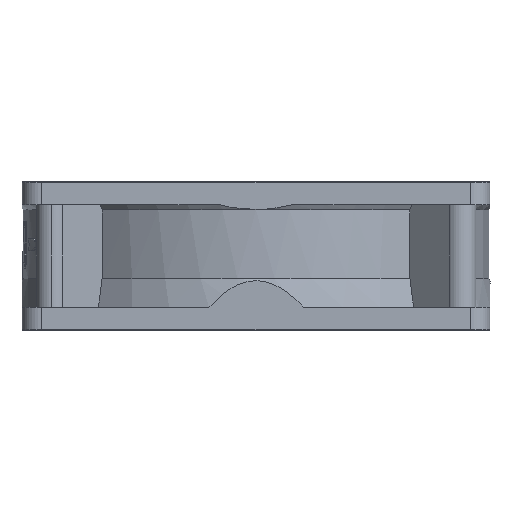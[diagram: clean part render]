
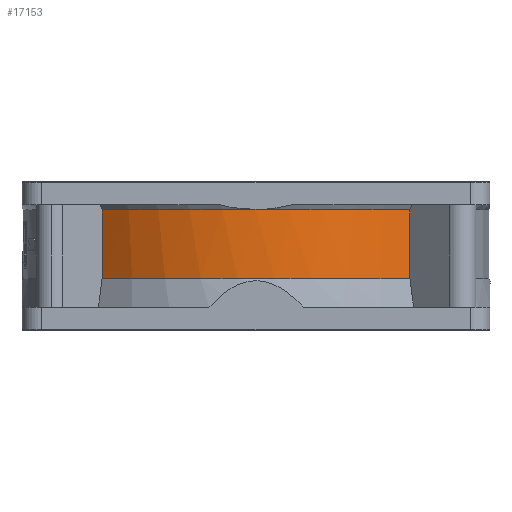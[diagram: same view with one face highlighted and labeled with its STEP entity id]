
A CAD part, front view. The second image highlights one B-rep face of the part: STEP entity #17153.
In plain terms, the highlighted cylindrical face has radius 59.9 mm (diameter 119.8 mm), a partial arc.
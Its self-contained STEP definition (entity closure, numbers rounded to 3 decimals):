
#927 = EDGE_CURVE ( 'NONE', #31319, #36711, #13132, .T. ) ;
#1618 = DIRECTION ( 'NONE',  ( 0., 1., 0. ) ) ;
#3577 = VECTOR ( 'NONE', #10868, 1000. ) ;
#4186 = CIRCLE ( 'NONE', #28013, 59.9 ) ;
#4473 = CARTESIAN_POINT ( 'NONE',  ( 0., 0., 30.9 ) ) ;
#5042 = VERTEX_POINT ( 'NONE', #5682 ) ;
#5682 = CARTESIAN_POINT ( 'NONE',  ( -39.47, -45.057, 13.3 ) ) ;
#6565 = CARTESIAN_POINT ( 'NONE',  ( 39.47, -45.057, 30.9 ) ) ;
#10178 = CARTESIAN_POINT ( 'NONE',  ( 0., 0., 30.9 ) ) ;
#10749 = ORIENTED_EDGE ( 'NONE', *, *, #927, .T. ) ;
#10868 = DIRECTION ( 'NONE',  ( 0., 0., 1. ) ) ;
#11806 = CYLINDRICAL_SURFACE ( 'NONE', #36305, 59.9 ) ;
#12175 = AXIS2_PLACEMENT_3D ( 'NONE', #10178, #19116, #1618 ) ;
#13132 = CIRCLE ( 'NONE', #30953, 59.9 ) ;
#13680 = DIRECTION ( 'NONE',  ( 0., 1., 0. ) ) ;
#15641 = DIRECTION ( 'NONE',  ( 0., 0., -1. ) ) ;
#16049 = ORIENTED_EDGE ( 'NONE', *, *, #30773, .T. ) ;
#16186 = LINE ( 'NONE', #24964, #25703 ) ;
#16481 = VERTEX_POINT ( 'NONE', #23526 ) ;
#17053 = EDGE_CURVE ( 'NONE', #27428, #5042, #4186, .T. ) ;
#17153 = ADVANCED_FACE ( 'NONE', ( #34846 ), #11806, .T. ) ;
#18345 = EDGE_CURVE ( 'NONE', #5042, #16481, #16186, .T. ) ;
#18666 = CARTESIAN_POINT ( 'NONE',  ( 0., -59.9, 30.9 ) ) ;
#19090 = DIRECTION ( 'NONE',  ( 0., 0., -1. ) ) ;
#19116 = DIRECTION ( 'NONE',  ( 0., 0., -1. ) ) ;
#20058 = EDGE_CURVE ( 'NONE', #27428, #31319, #20978, .T. ) ;
#20978 = LINE ( 'NONE', #36348, #3577 ) ;
#21494 = ORIENTED_EDGE ( 'NONE', *, *, #17053, .F. ) ;
#21658 = EDGE_LOOP ( 'NONE', ( #27852, #10749, #16049, #35920, #21494 ) ) ;
#22455 = CARTESIAN_POINT ( 'NONE',  ( 0., 0., 13.3 ) ) ;
#22550 = DIRECTION ( 'NONE',  ( 0., 0., 1. ) ) ;
#23341 = DIRECTION ( 'NONE',  ( 0., 0., -1. ) ) ;
#23526 = CARTESIAN_POINT ( 'NONE',  ( -39.47, -45.057, 30.9 ) ) ;
#24964 = CARTESIAN_POINT ( 'NONE',  ( -39.47, -45.057, -0.002 ) ) ;
#25592 = DIRECTION ( 'NONE',  ( 0., 1., 0. ) ) ;
#25703 = VECTOR ( 'NONE', #22550, 1000. ) ;
#27428 = VERTEX_POINT ( 'NONE', #33045 ) ;
#27852 = ORIENTED_EDGE ( 'NONE', *, *, #20058, .T. ) ;
#28013 = AXIS2_PLACEMENT_3D ( 'NONE', #22455, #19090, #13680 ) ;
#29998 = CIRCLE ( 'NONE', #12175, 59.9 ) ;
#30773 = EDGE_CURVE ( 'NONE', #36711, #16481, #29998, .T. ) ;
#30953 = AXIS2_PLACEMENT_3D ( 'NONE', #4473, #15641, #31894 ) ;
#31319 = VERTEX_POINT ( 'NONE', #6565 ) ;
#31894 = DIRECTION ( 'NONE',  ( 0., 1., 0. ) ) ;
#33045 = CARTESIAN_POINT ( 'NONE',  ( 39.47, -45.057, 13.3 ) ) ;
#34665 = CARTESIAN_POINT ( 'NONE',  ( 0., 0., 0. ) ) ;
#34846 = FACE_OUTER_BOUND ( 'NONE', #21658, .T. ) ;
#35920 = ORIENTED_EDGE ( 'NONE', *, *, #18345, .F. ) ;
#36305 = AXIS2_PLACEMENT_3D ( 'NONE', #34665, #23341, #25592 ) ;
#36348 = CARTESIAN_POINT ( 'NONE',  ( 39.47, -45.057, -0.002 ) ) ;
#36711 = VERTEX_POINT ( 'NONE', #18666 ) ;
